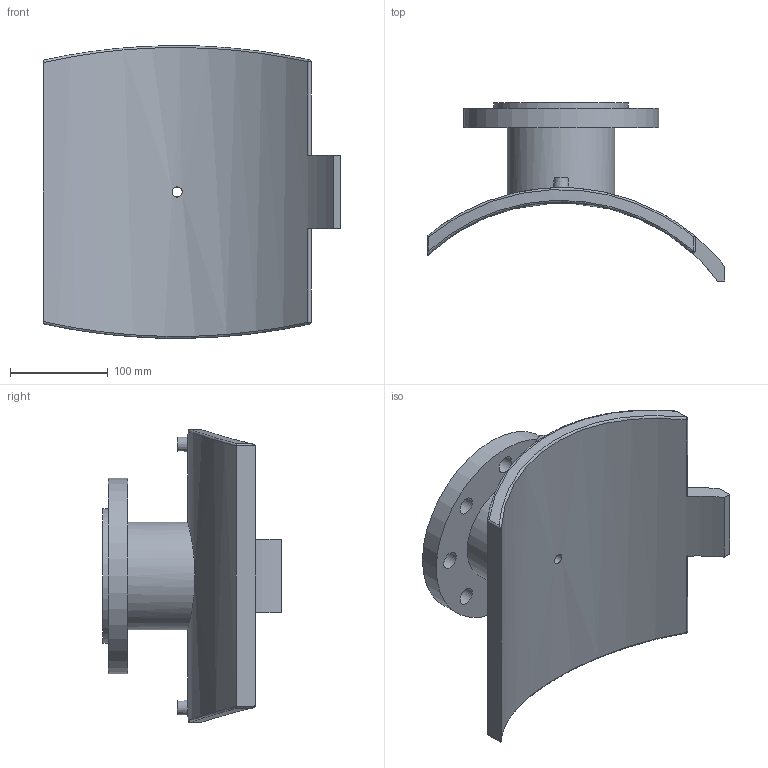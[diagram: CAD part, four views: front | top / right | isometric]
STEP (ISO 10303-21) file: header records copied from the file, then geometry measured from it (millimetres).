
FILE_DESCRIPTION(/* description */ ('PLASSON FLANGED BRANCH SADDLE 250-400X80'),/* implementation_level */ '2;1');
FILE_NAME(/* name */ 'C:\Dropbox\KIMPROJECTS-Inventor 2019\99-16-3568-Processing\ElectroFusion Fittings\495904_495903\stp\495904400080T.stp',/* time_stamp */ '2024-04-03T21:00:11+02:00',/* author */ ('KIM'),/* organization */ (''),/* preprocessor_version */ 'ST-DEVELOPER v17.2',/* originating_system */ 'Autodesk Inventor 2019',/* authorisation */ '');
FILE_SCHEMA (('AUTOMOTIVE_DESIGN { 1 0 10303 214 3 1 1 }'));
Length unit declared in the file: millimetre
Products named in the file (1): 495904400080T
Bounding box: 305 x 182.52 x 299.93 mm (x, y, z)
Volume: 2190118.6 mm3; surface area: 315660.6 mm2
Topology: 1 solids, 1 shells, 58 faces, 151 edges, 118 vertices
Faces by surface type: cylinder 31, plane 17, sphere 4, bspline 4, cone 2
Full cylindrical faces by diameter (mm): 4 x2, 10 x2, 10.4 x1, 16 x1, 18 x8, 80 x1, 110.4 x1, 138 x1, 200 x1
Entity records: 2442 total; most frequent: CARTESIAN_POINT 946, DIRECTION 297, ORIENTED_EDGE 274, EDGE_CURVE 137, AXIS2_PLACEMENT_3D 125, VERTEX_POINT 92, EDGE_LOOP 87, CIRCLE 70
